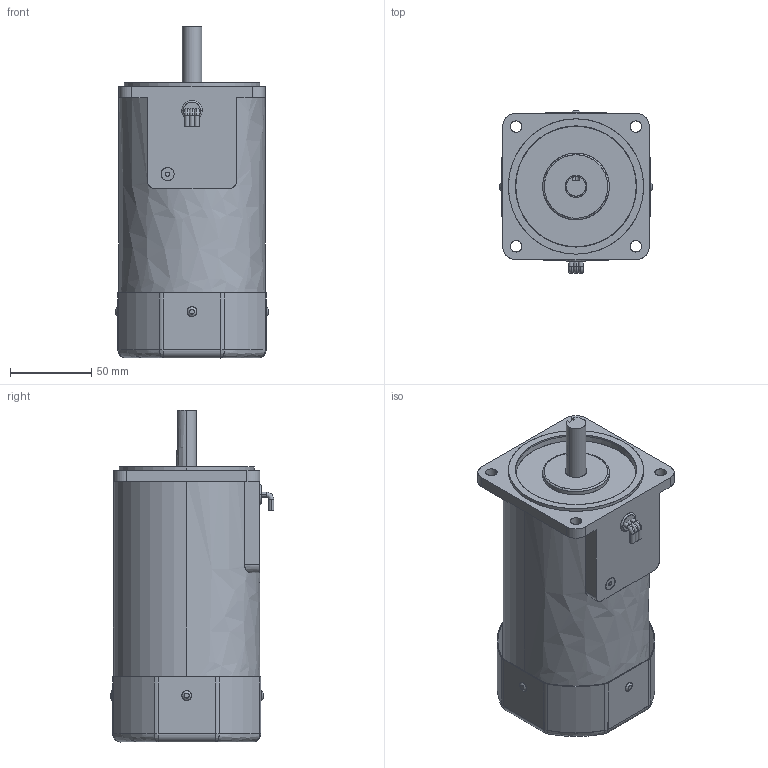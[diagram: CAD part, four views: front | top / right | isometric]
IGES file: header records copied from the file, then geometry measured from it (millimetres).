
Start section: SolidWorks IGES file using analytic representation for surfaces
Bounding box: 94 x 100.5 x 204 mm (x, y, z)
Surface area: 150737.4 mm2 (no closed solid volume)
Topology: 0 solids, 0 shells, 213 faces, 3851 edges, 3835 vertices
Faces by surface type: revolution 108, bspline 105
